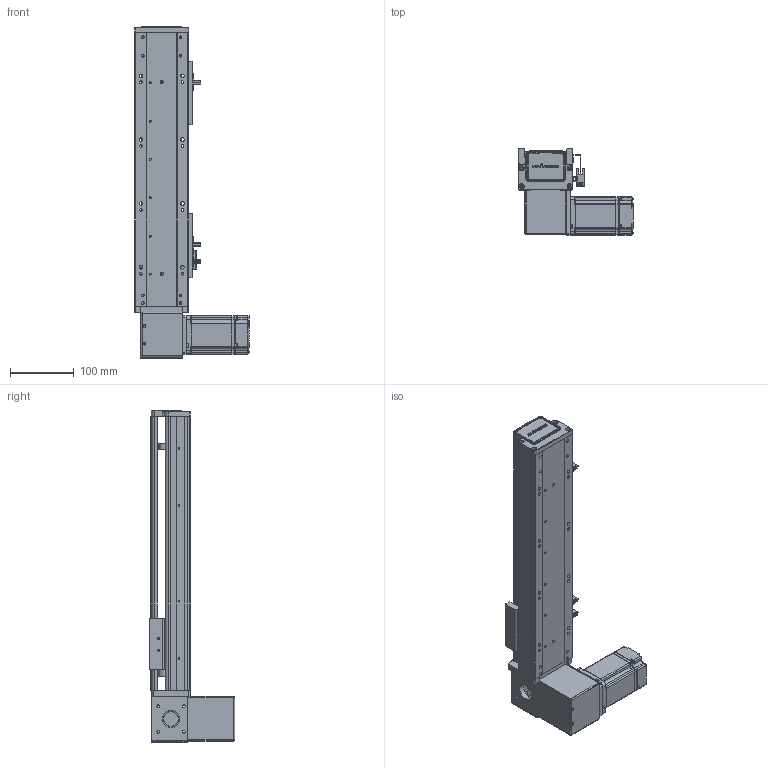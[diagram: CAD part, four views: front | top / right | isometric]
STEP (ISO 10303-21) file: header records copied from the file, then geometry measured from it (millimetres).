
FILE_DESCRIPTION (( 'STEP AP203' ), '1' );
FILE_NAME ('RY80-T-300-DR.SLDASM_250.step', '2021-03-01T01:49:08', ( '盈信电脑' ), ( '东莞市道滘镇水果街19号' ), 'SwSTEP 2.0', 'SolidWorks 2012', '' );
FILE_SCHEMA (( 'CONFIG_CONTROL_DESIGN' ));
Products named in the file (18): RY80-T-300-DR倰第菁釱_250; RY80-T肮祭謫臏賑輸; 1; RY80-T-300-DR.SLDASM_250; RY80-T-M4蹟翐3; RY80-T翋肮祭謫裔啣; RY80-T萇儂假蚾啣; RY80-T肮祭謫狟殏俋欶; RY80-T-上下折同步轮盖板; RY80-T肮祭湍揤輸1; 滅袉蝶18-10; RY80-T肮祭湍揤輸2; RY80俋离覜茼え; 覜茼ん672; 672嫖萇羲壽假蚾釱; RY80-T-翋肮祭謫釱; RY80-T-300-DR倰第奻裔啣_250; RY80-T綴裔啣
Assembly tree (21 placements, depth 2):
  RY80-T-300-DR.SLDASM_250
    RY80-T-300-DR倰第菁釱_250
    RY80-T肮祭謫臏賑輸
    RY80-T-300-DR倰第奻裔啣_250
    RY80-T綴裔啣
    672嫖萇羲壽假蚾釱  x2
    覜茼ん672  x3
    RY80俋离覜茼え
    RY80-T-翋肮祭謫釱
    RY80-T肮祭湍揤輸1
    RY80-T肮祭湍揤輸2
    滅袉蝶18-10  x2
    RY80-T翋肮祭謫裔啣
    RY80-T-上下折同步轮盖板
    RY80-T肮祭謫狟殏俋欶
    RY80-T萇儂假蚾啣
    1
    RY80-T-M4蹟翐3
Bounding box: 180 x 134.5 x 520 mm (x, y, z)
Volume: 1194244.6 mm3; surface area: 467014.5 mm2
Topology: 21 solids, 21 shells, 2288 faces, 6292 edges, 4082 vertices
Faces by surface type: plane 1283, cylinder 811, cone 138, bspline 56
Entity records: 71550 total; most frequent: CARTESIAN_POINT 16658, ORIENTED_EDGE 11228, DIRECTION 10650, EDGE_CURVE 5614, VERTEX_POINT 3686, LINE 3598, VECTOR 3598, AXIS2_PLACEMENT_3D 3526
